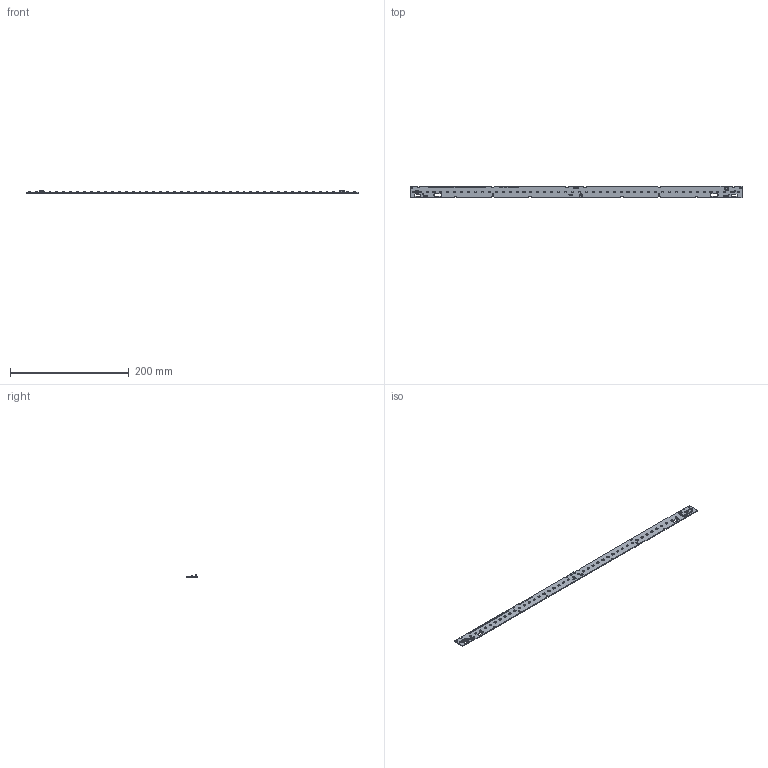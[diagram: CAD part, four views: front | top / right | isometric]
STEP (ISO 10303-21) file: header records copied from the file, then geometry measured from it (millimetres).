
FILE_DESCRIPTION(('Creo Elements/Direct Modeling STEP Export'),'2;1');
FILE_NAME('3D-Model_WU-M-738-STC.stp','2024-12-03T14:47:07',(''),(''),'PTC Creo Elements/Direct Modeling STEP processor for AP214 (Solid Model)','PTC Creo Elements/Direct Modeling 19.0E 27-Jun-2016 (C) Parametric Technology GmbH','');
FILE_SCHEMA(('AUTOMOTIVE_DESIGN { 1 0 10303 214 1 1 1 1 }'));
Length unit declared in the file: millimetre
Products named in the file (119): p1.2; p1.1; p1; 2065-101_998-403.prt; 2065-101_998-403.prt.1; Konektor; ______STEP.ASM; _____-0_STEP.PRT; _____-0_STEP.PRT.1; _____-0_STEP.PRT.1.1; _____-0_STEP.PRT.1.12.1; Dioda02; Dioda01; Dioda; Baza-ploca; 3D-Adresa.37; 3D-Adresa.42; 3D-Adresa.41; 3D-Adresa.39; 3D-Adresa.36; 3D-Adresa.43; 3D-Adresa.38; 3D-Adresa.44; 3D-Adresa.40; 3D-Adresa.65; 3D-Adresa.64; 3D-Adresa.62; 3D-Adresa.61; 3D-Adresa.66; 3D-Adresa.57; 3D-Adresa.59; 3D-Adresa.67; 3D-Adresa.63; 3D-Adresa.60; 3D-Adresa.58; 3D-Adresa.1; 3D-Adresa; 3D-Adresa.15; 3D-Adresa.23; 3D-Adresa.17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
Assembly tree (156 placements, depth 4):
  p1.2
  p1.1
  p1
  Konektor
    2065-101_998-403.prt.1
    2065-101_998-403.prt
  Dioda
    Dioda01
      Dioda02
        _____-0_STEP.PRT.1.12.1  x12
        _____-0_STEP.PRT.1.1  x12
        _____-0_STEP.PRT.1  x12
        _____-0_STEP.PRT  x12
        ______STEP.ASM
Bounding box: 559 x 20 x 4.3 mm (x, y, z)
Volume: 17371.5 mm3; surface area: 26066.9 mm2
Topology: 106 solids, 346 shells, 9525 faces, 25555 edges, 16568 vertices
Faces by surface type: plane 7627, cylinder 1898
Entity records: 128918 total; most frequent: CARTESIAN_POINT 18101, ORIENTED_EDGE 17790, DIRECTION 17215, EDGE_CURVE 8879, VECTOR 7119, LINE 7119, VERTEX_POINT 5876, AXIS2_PLACEMENT_3D 5048
